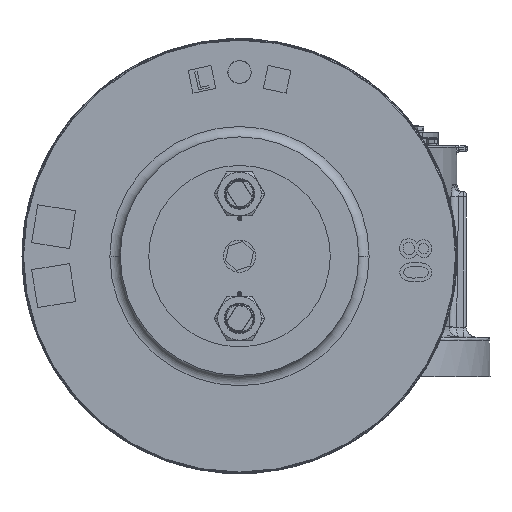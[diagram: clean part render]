
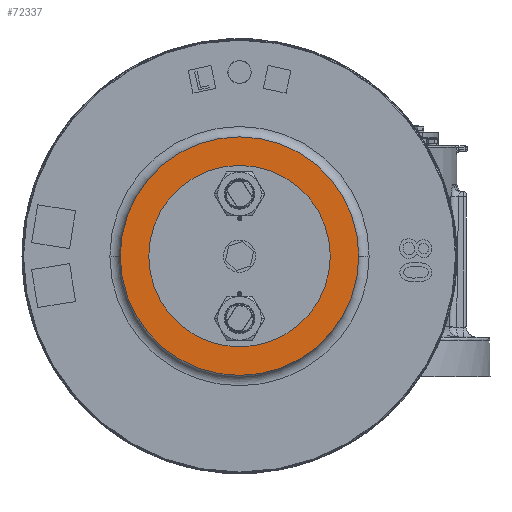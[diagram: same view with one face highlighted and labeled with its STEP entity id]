
A CAD part, left-side view. The second image highlights one B-rep face of the part: STEP entity #72337.
In plain terms, the highlighted planar face has unit normal (-1, 0, 0).
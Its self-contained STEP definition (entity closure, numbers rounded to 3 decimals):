
#231 = DIRECTION ( 'NONE',  ( 0., -1., 0. ) ) ;
#1401 = DIRECTION ( 'NONE',  ( 0., -1., 0. ) ) ;
#2060 = EDGE_CURVE ( 'NONE', #75280, #22882, #120660, .T. ) ;
#3841 = FACE_BOUND ( 'NONE', #34227, .T. ) ;
#4114 = CARTESIAN_POINT ( 'NONE',  ( -2016., 28., 168. ) ) ;
#11597 = EDGE_CURVE ( 'NONE', #22882, #75280, #20948, .T. ) ;
#12021 = CARTESIAN_POINT ( 'NONE',  ( -2016., 203., 168. ) ) ;
#19627 = CARTESIAN_POINT ( 'NONE',  ( -2016., 203., 168. ) ) ;
#20948 = CIRCLE ( 'NONE', #58964, 230. ) ;
#22882 = VERTEX_POINT ( 'NONE', #38739 ) ;
#31839 = CIRCLE ( 'NONE', #40356, 175. ) ;
#34227 = EDGE_LOOP ( 'NONE', ( #42697, #108885 ) ) ;
#36876 = DIRECTION ( 'NONE',  ( 0., 1., 0. ) ) ;
#38739 = CARTESIAN_POINT ( 'NONE',  ( -2016., -27., 168. ) ) ;
#40356 = AXIS2_PLACEMENT_3D ( 'NONE', #59334, #107590, #36876 ) ;
#42697 = ORIENTED_EDGE ( 'NONE', *, *, #114419, .F. ) ;
#44964 = ORIENTED_EDGE ( 'NONE', *, *, #2060, .T. ) ;
#50780 = AXIS2_PLACEMENT_3D ( 'NONE', #114302, #85182, #73992 ) ;
#51746 = DIRECTION ( 'NONE',  ( -1., 0., 0. ) ) ;
#58964 = AXIS2_PLACEMENT_3D ( 'NONE', #129248, #129905, #231 ) ;
#59334 = CARTESIAN_POINT ( 'NONE',  ( -2016., 203., 168. ) ) ;
#59975 = DIRECTION ( 'NONE',  ( 0., 1., 0. ) ) ;
#61033 = ORIENTED_EDGE ( 'NONE', *, *, #11597, .T. ) ;
#62776 = FACE_OUTER_BOUND ( 'NONE', #125689, .T. ) ;
#65268 = VERTEX_POINT ( 'NONE', #87963 ) ;
#70957 = AXIS2_PLACEMENT_3D ( 'NONE', #19627, #79776, #59975 ) ;
#72337 = ADVANCED_FACE ( 'NONE', ( #3841, #62776 ), #103707, .F. ) ;
#73992 = DIRECTION ( 'NONE',  ( 0., 0., 1. ) ) ;
#75280 = VERTEX_POINT ( 'NONE', #100004 ) ;
#79776 = DIRECTION ( 'NONE',  ( -1., 0., 0. ) ) ;
#85182 = DIRECTION ( 'NONE',  ( 1., 0., 0. ) ) ;
#87963 = CARTESIAN_POINT ( 'NONE',  ( -2016., 378., 168. ) ) ;
#100004 = CARTESIAN_POINT ( 'NONE',  ( -2016., 433., 168. ) ) ;
#102532 = CIRCLE ( 'NONE', #70957, 175. ) ;
#102631 = VERTEX_POINT ( 'NONE', #4114 ) ;
#103707 = PLANE ( 'NONE',  #50780 ) ;
#107590 = DIRECTION ( 'NONE',  ( -1., 0., 0. ) ) ;
#108885 = ORIENTED_EDGE ( 'NONE', *, *, #123381, .F. ) ;
#112177 = AXIS2_PLACEMENT_3D ( 'NONE', #12021, #51746, #1401 ) ;
#114302 = CARTESIAN_POINT ( 'NONE',  ( -2016., 203., 168. ) ) ;
#114419 = EDGE_CURVE ( 'NONE', #65268, #102631, #31839, .T. ) ;
#120660 = CIRCLE ( 'NONE', #112177, 230. ) ;
#123381 = EDGE_CURVE ( 'NONE', #102631, #65268, #102532, .T. ) ;
#125689 = EDGE_LOOP ( 'NONE', ( #61033, #44964 ) ) ;
#129248 = CARTESIAN_POINT ( 'NONE',  ( -2016., 203., 168. ) ) ;
#129905 = DIRECTION ( 'NONE',  ( -1., 0., 0. ) ) ;
